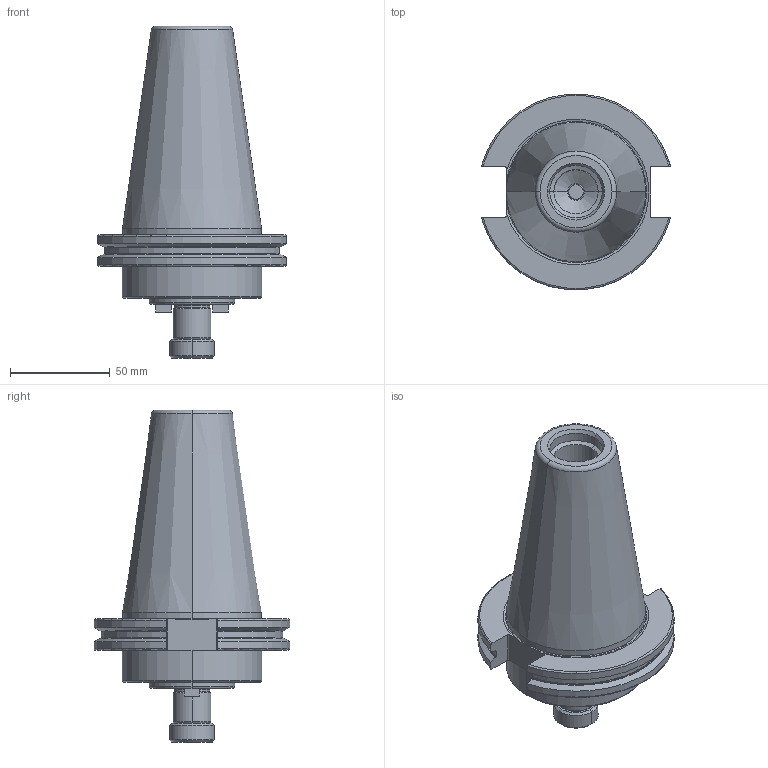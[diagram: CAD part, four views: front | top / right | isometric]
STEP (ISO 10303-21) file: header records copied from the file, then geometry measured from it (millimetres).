
FILE_DESCRIPTION (( 'STEP AP214' ), '1' );
FILE_NAME ('RC5SM07501500.STEP', '2019-02-08T19:08:58', ( '' ), ( '' ), 'SwSTEP 2.0', 'SolidWorks 2019', '' );
FILE_SCHEMA (( 'AUTOMOTIVE_DESIGN' ));
Length unit declared in the file: inch
Products named in the file (1): RC5SM07501500
Bounding box: 94.95 x 98.05 x 166.64 mm (x, y, z)
Volume: 391949.6 mm3; surface area: 52160.5 mm2
Topology: 1 solids, 4 shells, 232 faces, 604 edges, 368 vertices
Faces by surface type: plane 79, cone 67, cylinder 58, torus 28
Entity records: 9225 total; most frequent: CARTESIAN_POINT 1909, DIRECTION 1215, ORIENTED_EDGE 1184, EDGE_CURVE 592, AXIS2_PLACEMENT_3D 476, VERTEX_POINT 368, LINE 263, VECTOR 263
